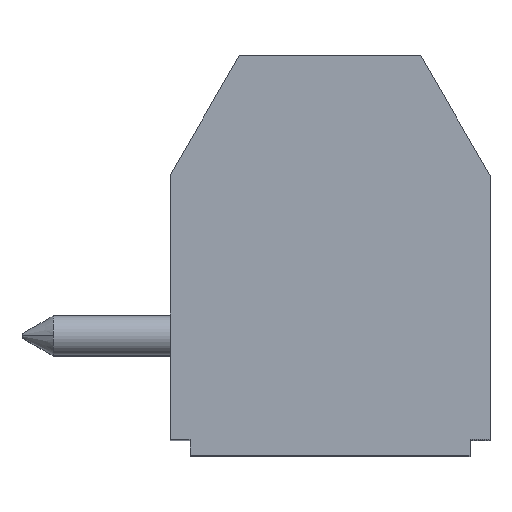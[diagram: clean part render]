
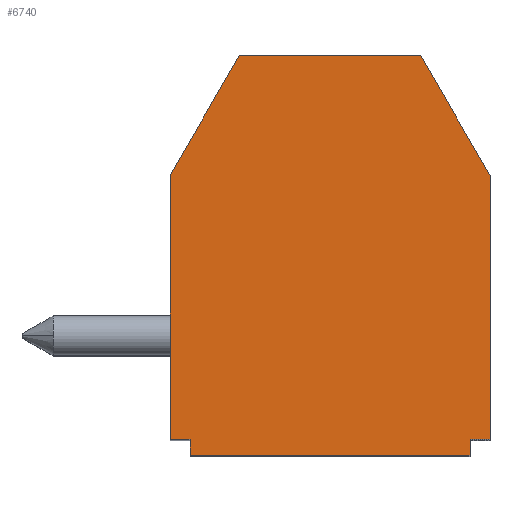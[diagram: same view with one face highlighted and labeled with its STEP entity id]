
A CAD part, top view. The second image highlights one B-rep face of the part: STEP entity #6740.
In plain terms, the highlighted planar face has unit normal (0, 0, 1).
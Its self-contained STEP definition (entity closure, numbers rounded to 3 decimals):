
#2803 = CARTESIAN_POINT ( 'NONE',  ( -3.062, -2.845, 0. ) ) ;
#2804 = DIRECTION ( 'NONE',  ( 0., -1., 0. ) ) ;
#2805 = VECTOR ( 'NONE', #2804, 1000. ) ;
#2806 = CARTESIAN_POINT ( 'NONE',  ( -3.062, -3.045, 0. ) ) ;
#2807 = LINE ( 'NONE', #2806, #2805 ) ;
#2808 = CARTESIAN_POINT ( 'NONE',  ( -3.062, -3.245, 0. ) ) ;
#2855 = CARTESIAN_POINT ( 'NONE',  ( 2.706, 6.755, 0. ) ) ;
#2871 = CARTESIAN_POINT ( 'NONE',  ( -1.83, 6.755, 0. ) ) ;
#2901 = DIRECTION ( 'NONE',  ( 1., 0., 0. ) ) ;
#2902 = VECTOR ( 'NONE', #2901, 1000. ) ;
#2903 = CARTESIAN_POINT ( 'NONE',  ( 0.438, -3.245, 0. ) ) ;
#2904 = LINE ( 'NONE', #2903, #2902 ) ;
#2911 = DIRECTION ( 'NONE',  ( 1., 0., 0. ) ) ;
#2912 = VECTOR ( 'NONE', #2911, 1000. ) ;
#2913 = CARTESIAN_POINT ( 'NONE',  ( 0.438, -2.845, 0. ) ) ;
#2914 = LINE ( 'NONE', #2913, #2912 ) ;
#2915 = CARTESIAN_POINT ( 'NONE',  ( 4.438, -2.845, 0. ) ) ;
#2929 = CARTESIAN_POINT ( 'NONE',  ( 4.438, 3.755, 0. ) ) ;
#2930 = DIRECTION ( 'NONE',  ( -0.5, 0.866, 0. ) ) ;
#2931 = VECTOR ( 'NONE', #2930, 1000. ) ;
#2932 = CARTESIAN_POINT ( 'NONE',  ( 4.438, 3.755, 0. ) ) ;
#2933 = LINE ( 'NONE', #2932, #2931 ) ;
#2943 = DIRECTION ( 'NONE',  ( -1., 0., 0. ) ) ;
#2944 = VECTOR ( 'NONE', #2943, 1000. ) ;
#2945 = CARTESIAN_POINT ( 'NONE',  ( 0.438, 6.755, 0. ) ) ;
#2946 = LINE ( 'NONE', #2945, #2944 ) ;
#2957 = CARTESIAN_POINT ( 'NONE',  ( 3.938, -2.845, 0. ) ) ;
#2958 = DIRECTION ( 'NONE',  ( 0., 1., 0. ) ) ;
#2959 = VECTOR ( 'NONE', #2958, 1000. ) ;
#2960 = CARTESIAN_POINT ( 'NONE',  ( 3.938, 1.755, 0. ) ) ;
#2966 = LINE ( 'NONE', #2960, #2959 ) ;
#2993 = CARTESIAN_POINT ( 'NONE',  ( 3.938, -3.245, 0. ) ) ;
#3202 = DIRECTION ( 'NONE',  ( -0.5, -0.866, 0. ) ) ;
#3203 = VECTOR ( 'NONE', #3202, 1000. ) ;
#3204 = CARTESIAN_POINT ( 'NONE',  ( -1.83, 6.755, 0. ) ) ;
#3205 = LINE ( 'NONE', #3204, #3203 ) ;
#3206 = CARTESIAN_POINT ( 'NONE',  ( -3.562, -2.845, 0. ) ) ;
#3217 = DIRECTION ( 'NONE',  ( 0., 1., 0. ) ) ;
#3218 = VECTOR ( 'NONE', #3217, 1000. ) ;
#3219 = CARTESIAN_POINT ( 'NONE',  ( 4.438, 1.755, 0. ) ) ;
#3220 = LINE ( 'NONE', #3219, #3218 ) ;
#3274 = DIRECTION ( 'NONE',  ( 1., 0., 0. ) ) ;
#3275 = VECTOR ( 'NONE', #3274, 1000. ) ;
#3276 = CARTESIAN_POINT ( 'NONE',  ( 0.438, -2.845, 0. ) ) ;
#3277 = LINE ( 'NONE', #3276, #3275 ) ;
#3278 = DIRECTION ( 'NONE',  ( 1., 0., 0. ) ) ;
#3279 = DIRECTION ( 'NONE',  ( 0., 0., 1. ) ) ;
#3280 = CARTESIAN_POINT ( 'NONE',  ( -3.562, -3.245, 0. ) ) ;
#3281 = AXIS2_PLACEMENT_3D ( 'NONE', #3280, #3279, #3278 ) ;
#3282 = PLANE ( 'NONE',  #3281 ) ;
#3283 = FACE_OUTER_BOUND ( 'NONE', #6741, .T. ) ;
#3292 = CARTESIAN_POINT ( 'NONE',  ( -3.562, 3.755, 0. ) ) ;
#3348 = DIRECTION ( 'NONE',  ( 0., 1., 0. ) ) ;
#3349 = VECTOR ( 'NONE', #3348, 1000. ) ;
#3350 = CARTESIAN_POINT ( 'NONE',  ( -3.562, 0.455, 0. ) ) ;
#3351 = LINE ( 'NONE', #3350, #3349 ) ;
#6528 = VERTEX_POINT ( 'NONE', #2808 ) ;
#6530 = EDGE_CURVE ( 'NONE', #6531, #6528, #2807, .T. ) ;
#6531 = VERTEX_POINT ( 'NONE', #2803 ) ;
#6538 = VERTEX_POINT ( 'NONE', #2855 ) ;
#6566 = VERTEX_POINT ( 'NONE', #2871 ) ;
#6600 = EDGE_CURVE ( 'NONE', #6601, #6538, #2933, .T. ) ;
#6601 = VERTEX_POINT ( 'NONE', #2929 ) ;
#6608 = VERTEX_POINT ( 'NONE', #2915 ) ;
#6610 = EDGE_CURVE ( 'NONE', #6624, #6608, #2914, .T. ) ;
#6619 = EDGE_CURVE ( 'NONE', #6528, #6643, #2904, .T. ) ;
#6623 = EDGE_CURVE ( 'NONE', #6643, #6624, #2966, .T. ) ;
#6624 = VERTEX_POINT ( 'NONE', #2957 ) ;
#6631 = EDGE_CURVE ( 'NONE', #6538, #6566, #2946, .T. ) ;
#6643 = VERTEX_POINT ( 'NONE', #2993 ) ;
#6686 = EDGE_CURVE ( 'NONE', #6608, #6601, #3220, .T. ) ;
#6702 = VERTEX_POINT ( 'NONE', #3206 ) ;
#6704 = EDGE_CURVE ( 'NONE', #6566, #6727, #3205, .T. ) ;
#6727 = VERTEX_POINT ( 'NONE', #3292 ) ;
#6740 = ADVANCED_FACE ( 'NONE', ( #3283 ), #3282, .T. ) ;
#6741 = EDGE_LOOP ( 'NONE', ( #6742, #6743, #6744, #6745, #6810, #6811, #6813, #6814, #6815, #6816 ) ) ;
#6742 = ORIENTED_EDGE ( 'NONE', *, *, #6610, .T. ) ;
#6743 = ORIENTED_EDGE ( 'NONE', *, *, #6686, .T. ) ;
#6744 = ORIENTED_EDGE ( 'NONE', *, *, #6600, .T. ) ;
#6745 = ORIENTED_EDGE ( 'NONE', *, *, #6631, .T. ) ;
#6766 = EDGE_CURVE ( 'NONE', #6702, #6531, #3277, .T. ) ;
#6810 = ORIENTED_EDGE ( 'NONE', *, *, #6704, .T. ) ;
#6811 = ORIENTED_EDGE ( 'NONE', *, *, #6812, .F. ) ;
#6812 = EDGE_CURVE ( 'NONE', #6702, #6727, #3351, .T. ) ;
#6813 = ORIENTED_EDGE ( 'NONE', *, *, #6766, .T. ) ;
#6814 = ORIENTED_EDGE ( 'NONE', *, *, #6530, .T. ) ;
#6815 = ORIENTED_EDGE ( 'NONE', *, *, #6619, .T. ) ;
#6816 = ORIENTED_EDGE ( 'NONE', *, *, #6623, .T. ) ;
